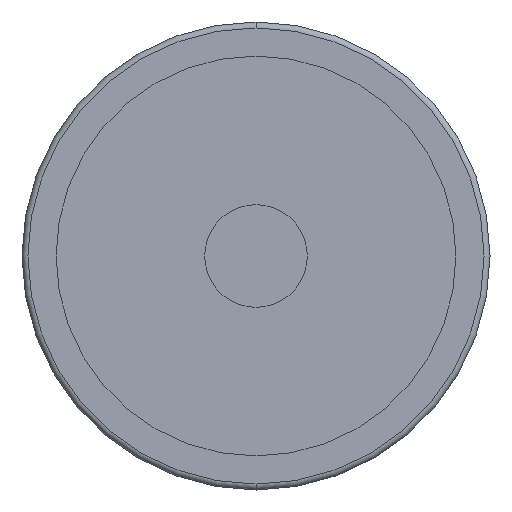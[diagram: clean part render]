
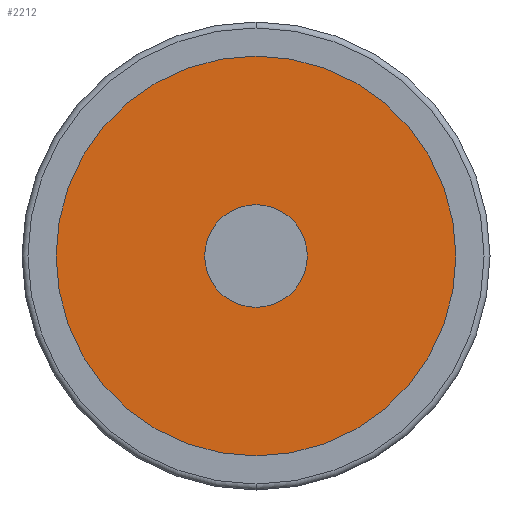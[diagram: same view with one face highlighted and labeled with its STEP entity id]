
A CAD part, front view. The second image highlights one B-rep face of the part: STEP entity #2212.
In plain terms, the highlighted planar face has unit normal (0, -1, 0).
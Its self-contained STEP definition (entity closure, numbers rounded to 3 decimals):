
#20 = DIRECTION ( 'NONE',  ( 1., 0., 0. ) ) ;
#76 = DIRECTION ( 'NONE',  ( 1., 0., 0. ) ) ;
#165 = EDGE_LOOP ( 'NONE', ( #2173, #2309 ) ) ;
#196 = CARTESIAN_POINT ( 'NONE',  ( 0., 4.5, 0. ) ) ;
#255 = DIRECTION ( 'NONE',  ( 0., -1., 0. ) ) ;
#273 = AXIS2_PLACEMENT_3D ( 'NONE', #1295, #669, #685 ) ;
#290 = CARTESIAN_POINT ( 'NONE',  ( -34.25, 4.5, 0. ) ) ;
#397 = CIRCLE ( 'NONE', #557, 8. ) ;
#421 = EDGE_LOOP ( 'NONE', ( #1412, #1781 ) ) ;
#557 = AXIS2_PLACEMENT_3D ( 'NONE', #2334, #952, #738 ) ;
#669 = DIRECTION ( 'NONE',  ( 0., -1., 0. ) ) ;
#685 = DIRECTION ( 'NONE',  ( 1., 0., 0. ) ) ;
#735 = PLANE ( 'NONE',  #1179 ) ;
#738 = DIRECTION ( 'NONE',  ( 1., 0., 0. ) ) ;
#797 = EDGE_CURVE ( 'NONE', #2010, #1704, #2112, .T. ) ;
#846 = CARTESIAN_POINT ( 'NONE',  ( -34.25, 4.5, 0. ) ) ;
#871 = VERTEX_POINT ( 'NONE', #980 ) ;
#901 = EDGE_CURVE ( 'NONE', #871, #1815, #397, .T. ) ;
#937 = FACE_OUTER_BOUND ( 'NONE', #421, .T. ) ;
#943 = EDGE_CURVE ( 'NONE', #1815, #871, #2313, .T. ) ;
#952 = DIRECTION ( 'NONE',  ( 0., -1., 0. ) ) ;
#980 = CARTESIAN_POINT ( 'NONE',  ( -8., 4.5, 0. ) ) ;
#1179 = AXIS2_PLACEMENT_3D ( 'NONE', #846, #255, #20 ) ;
#1265 = EDGE_CURVE ( 'NONE', #1704, #2010, #2439, .T. ) ;
#1295 = CARTESIAN_POINT ( 'NONE',  ( 0., 4.5, 0. ) ) ;
#1412 = ORIENTED_EDGE ( 'NONE', *, *, #1265, .T. ) ;
#1539 = DIRECTION ( 'NONE',  ( 0., -1., 0. ) ) ;
#1665 = CARTESIAN_POINT ( 'NONE',  ( 8., 4.5, 0. ) ) ;
#1681 = FACE_BOUND ( 'NONE', #165, .T. ) ;
#1704 = VERTEX_POINT ( 'NONE', #290 ) ;
#1749 = AXIS2_PLACEMENT_3D ( 'NONE', #2019, #2049, #76 ) ;
#1781 = ORIENTED_EDGE ( 'NONE', *, *, #797, .T. ) ;
#1815 = VERTEX_POINT ( 'NONE', #1665 ) ;
#1941 = AXIS2_PLACEMENT_3D ( 'NONE', #196, #1539, #2480 ) ;
#2010 = VERTEX_POINT ( 'NONE', #2053 ) ;
#2019 = CARTESIAN_POINT ( 'NONE',  ( 0., 4.5, 0. ) ) ;
#2049 = DIRECTION ( 'NONE',  ( 0., -1., 0. ) ) ;
#2053 = CARTESIAN_POINT ( 'NONE',  ( 34.25, 4.5, 0. ) ) ;
#2112 = CIRCLE ( 'NONE', #273, 34.25 ) ;
#2173 = ORIENTED_EDGE ( 'NONE', *, *, #943, .F. ) ;
#2212 = ADVANCED_FACE ( 'NONE', ( #937, #1681 ), #735, .T. ) ;
#2309 = ORIENTED_EDGE ( 'NONE', *, *, #901, .F. ) ;
#2313 = CIRCLE ( 'NONE', #1941, 8. ) ;
#2334 = CARTESIAN_POINT ( 'NONE',  ( 0., 4.5, 0. ) ) ;
#2439 = CIRCLE ( 'NONE', #1749, 34.25 ) ;
#2480 = DIRECTION ( 'NONE',  ( 1., 0., 0. ) ) ;
